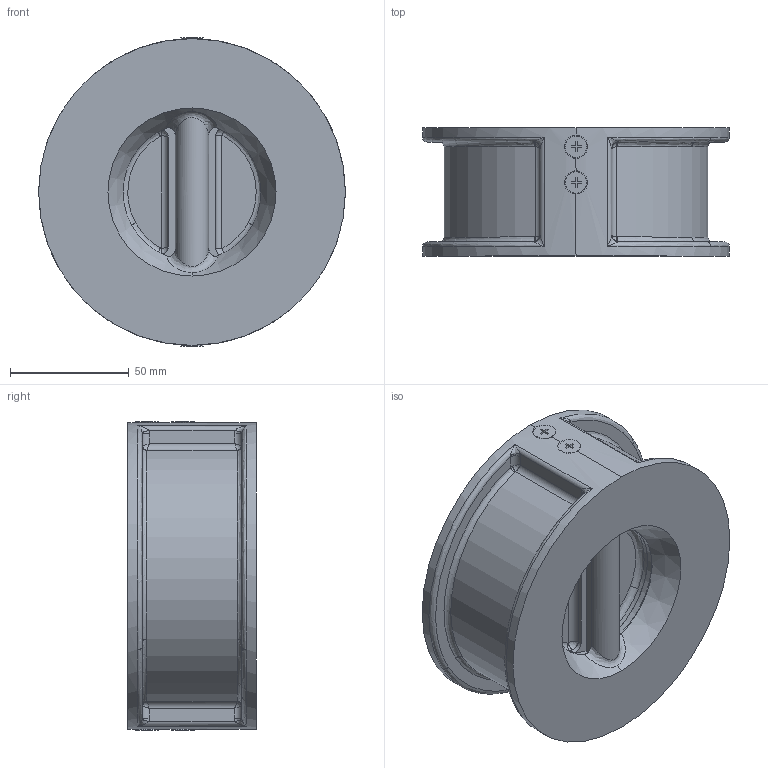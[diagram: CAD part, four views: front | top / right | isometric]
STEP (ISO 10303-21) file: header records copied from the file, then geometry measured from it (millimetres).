
FILE_DESCRIPTION (( 'STEP AP203' ), '1' );
FILE_NAME ('00.STEP', '2017-04-02T08:42:27', ( 'User' ), ( 'shendu' ), 'SwSTEP 2.0', 'SolidWorks 2015', '' );
FILE_SCHEMA (( 'CONFIG_CONTROL_DESIGN' ));
Products named in the file (1): 00
Bounding box: 129 x 54 x 129.73 mm (x, y, z)
Volume: 369522 mm3; surface area: 89555.8 mm2
Topology: 15 solids, 15 shells, 432 faces, 1035 edges, 608 vertices
Faces by surface type: cylinder 152, bspline 142, plane 126, cone 12
Entity records: 58612 total; most frequent: CARTESIAN_POINT 49618, ORIENTED_EDGE 2020, DIRECTION 1559, EDGE_CURVE 1010, VERTEX_POINT 608, AXIS2_PLACEMENT_3D 569, EDGE_LOOP 464, ADVANCED_FACE 432
